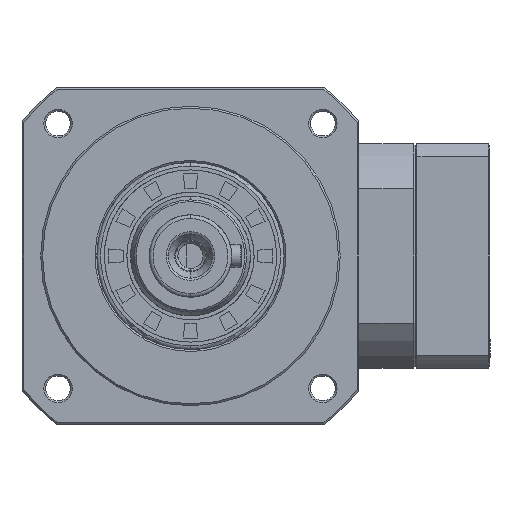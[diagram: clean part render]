
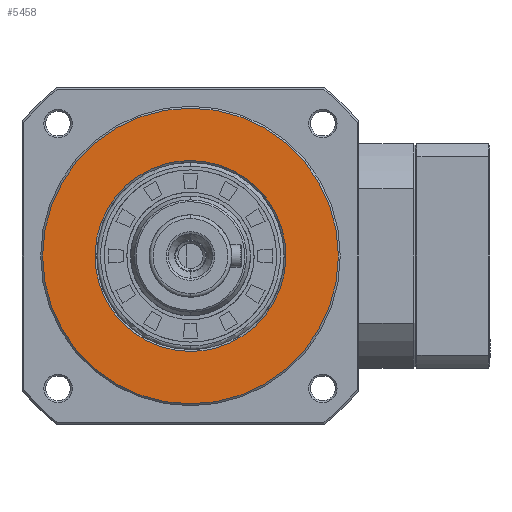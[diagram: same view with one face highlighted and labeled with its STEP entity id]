
A CAD part, left-side view. The second image highlights one B-rep face of the part: STEP entity #5458.
In plain terms, the highlighted planar face has unit normal (1, 0, 0).
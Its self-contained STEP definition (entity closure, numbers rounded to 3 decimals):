
#562 = CARTESIAN_POINT ( 'NONE',  ( 0., 1.669, 25.5 ) ) ;
#833 = B_SPLINE_CURVE_WITH_KNOTS ( 'NONE', 3,
 ( #36269, #6582, #43938, #51663, #97678, #28927, #21239, #35935, #37270, #59665, #28257, #36595, #74069, #6259, #75054, #44277, #98352, #67672, #74411, #29261, #51982, #36935, #58691, #12894, #20592, #43626, #97021, #51310, #13243, #98987, #15872, #60311, #562, #38897 ),
 .UNSPECIFIED., .F., .F.,
 ( 4, 2, 2, 2, 2, 2, 2, 2, 2, 2, 2, 2, 2, 2, 2, 2, 4 ),
 ( 0.5, 0.531, 0.563, 0.594, 0.625, 0.656, 0.688, 0.719, 0.75, 0.781, 0.813, 0.844, 0.875, 0.906, 0.938, 0.969, 1. ),
 .UNSPECIFIED. ) ;
#1478 = EDGE_CURVE ( 'NONE', #69586, #37942, #833, .T. ) ;
#3346 = CARTESIAN_POINT ( 'NONE',  ( 0., -8.216, 24.198 ) ) ;
#3692 = CARTESIAN_POINT ( 'NONE',  ( 0., -12.779, 22.13 ) ) ;
#3999 = DIRECTION ( 'NONE',  ( 0., 0., -1. ) ) ;
#4023 = CARTESIAN_POINT ( 'NONE',  ( 0., -24.684, -6.612 ) ) ;
#4440 = CIRCLE ( 'NONE', #47225, 39.5 ) ;
#5458 = ADVANCED_FACE ( 'NONE', ( #68067, #64553 ), #52792, .T. ) ;
#5602 = EDGE_LOOP ( 'NONE', ( #92540, #40645 ) ) ;
#5874 = ORIENTED_EDGE ( 'NONE', *, *, #39067, .T. ) ;
#6259 = CARTESIAN_POINT ( 'NONE',  ( 0., 24.198, -8.216 ) ) ;
#6582 = CARTESIAN_POINT ( 'NONE',  ( 0., 1.669, -25.5 ) ) ;
#7028 = CARTESIAN_POINT ( 'NONE',  ( 0., -39.974, 39.974 ) ) ;
#11017 = CARTESIAN_POINT ( 'NONE',  ( 0., -15.555, 20.275 ) ) ;
#11335 = CARTESIAN_POINT ( 'NONE',  ( 0., -25.336, 3.338 ) ) ;
#12316 = CARTESIAN_POINT ( 'NONE',  ( 0., -1.669, -25.5 ) ) ;
#12894 = CARTESIAN_POINT ( 'NONE',  ( 0., 20.275, 15.555 ) ) ;
#13243 = CARTESIAN_POINT ( 'NONE',  ( 0., 11.3, 22.92 ) ) ;
#13390 = DIRECTION ( 'NONE',  ( 1., 0., 0. ) ) ;
#15676 = DIRECTION ( 'NONE',  ( 0., 0., -1. ) ) ;
#15872 = CARTESIAN_POINT ( 'NONE',  ( 0., 6.612, 24.684 ) ) ;
#18658 = CARTESIAN_POINT ( 'NONE',  ( 0., -25.5, -1.669 ) ) ;
#18989 = CARTESIAN_POINT ( 'NONE',  ( 0., -22.13, -12.779 ) ) ;
#19331 = CARTESIAN_POINT ( 'NONE',  ( 0., -22.92, 11.3 ) ) ;
#19664 = CARTESIAN_POINT ( 'NONE',  ( 0., -1.669, 25.5 ) ) ;
#20592 = CARTESIAN_POINT ( 'NONE',  ( 0., 19.211, 16.851 ) ) ;
#21239 = CARTESIAN_POINT ( 'NONE',  ( 0., 12.779, -22.13 ) ) ;
#26004 = CARTESIAN_POINT ( 'NONE',  ( 0., -19.211, -16.851 ) ) ;
#26982 = CARTESIAN_POINT ( 'NONE',  ( 0., -3.338, -25.336 ) ) ;
#27315 = CARTESIAN_POINT ( 'NONE',  ( 0., -19.211, 16.851 ) ) ;
#27630 = CARTESIAN_POINT ( 'NONE',  ( 0., 0., 25.5 ) ) ;
#28257 = CARTESIAN_POINT ( 'NONE',  ( 0., 20.275, -15.555 ) ) ;
#28669 = ORIENTED_EDGE ( 'NONE', *, *, #96252, .T. ) ;
#28927 = CARTESIAN_POINT ( 'NONE',  ( 0., 11.3, -22.92 ) ) ;
#29261 = CARTESIAN_POINT ( 'NONE',  ( 0., 24.684, 6.612 ) ) ;
#31614 = EDGE_LOOP ( 'NONE', ( #28669, #5874 ) ) ;
#34370 = CARTESIAN_POINT ( 'NONE',  ( 0., -6.612, -24.684 ) ) ;
#34693 = CARTESIAN_POINT ( 'NONE',  ( 0., 0., 0. ) ) ;
#35935 = CARTESIAN_POINT ( 'NONE',  ( 0., 15.555, -20.275 ) ) ;
#36269 = CARTESIAN_POINT ( 'NONE',  ( 0., 0., -25.5 ) ) ;
#36595 = CARTESIAN_POINT ( 'NONE',  ( 0., 22.13, -12.779 ) ) ;
#36935 = CARTESIAN_POINT ( 'NONE',  ( 0., 22.92, 11.3 ) ) ;
#37270 = CARTESIAN_POINT ( 'NONE',  ( 0., 16.851, -19.211 ) ) ;
#37942 = VERTEX_POINT ( 'NONE', #27630 ) ;
#38897 = CARTESIAN_POINT ( 'NONE',  ( 0., 0., 25.5 ) ) ;
#39067 = EDGE_CURVE ( 'NONE', #76062, #66074, #4440, .T. ) ;
#39472 = AXIS2_PLACEMENT_3D ( 'NONE', #45978, #84712, #68691 ) ;
#40645 = ORIENTED_EDGE ( 'NONE', *, *, #1478, .F. ) ;
#41679 = CARTESIAN_POINT ( 'NONE',  ( 0., 0., 25.5 ) ) ;
#43626 = CARTESIAN_POINT ( 'NONE',  ( 0., 16.851, 19.211 ) ) ;
#43938 = CARTESIAN_POINT ( 'NONE',  ( 0., 3.338, -25.336 ) ) ;
#44277 = CARTESIAN_POINT ( 'NONE',  ( 0., 25.336, -3.338 ) ) ;
#45978 = CARTESIAN_POINT ( 'NONE',  ( 0., 0., 0. ) ) ;
#47225 = AXIS2_PLACEMENT_3D ( 'NONE', #34693, #95399, #3999 ) ;
#49076 = CARTESIAN_POINT ( 'NONE',  ( 0., 0., -25.5 ) ) ;
#49275 = CARTESIAN_POINT ( 'NONE',  ( 0., 0., -39.5 ) ) ;
#49412 = CARTESIAN_POINT ( 'NONE',  ( 0., -6.612, 24.684 ) ) ;
#50400 = CARTESIAN_POINT ( 'NONE',  ( 0., -22.92, -11.3 ) ) ;
#51310 = CARTESIAN_POINT ( 'NONE',  ( 0., 12.779, 22.13 ) ) ;
#51663 = CARTESIAN_POINT ( 'NONE',  ( 0., 6.612, -24.684 ) ) ;
#51982 = CARTESIAN_POINT ( 'NONE',  ( 0., 24.198, 8.216 ) ) ;
#52792 = PLANE ( 'NONE',  #99044 ) ;
#57080 = B_SPLINE_CURVE_WITH_KNOTS ( 'NONE', 3,
 ( #41679, #19664, #73130, #49412, #3346, #80471, #3692, #11017, #96090, #27315, #72126, #87452, #19331, #88096, #57089, #11335, #64444, #18658, #64782, #4023, #87771, #50400, #18989, #95424, #26004, #79474, #72784, #72446, #80142, #57438, #34370, #26982, #12316, #49076 ),
 .UNSPECIFIED., .F., .F.,
 ( 4, 2, 2, 2, 2, 2, 2, 2, 2, 2, 2, 2, 2, 2, 2, 2, 4 ),
 ( 0., 0.031, 0.063, 0.094, 0.125, 0.156, 0.188, 0.219, 0.25, 0.281, 0.313, 0.344, 0.375, 0.406, 0.438, 0.469, 0.5 ),
 .UNSPECIFIED. ) ;
#57089 = CARTESIAN_POINT ( 'NONE',  ( 0., -24.684, 6.612 ) ) ;
#57438 = CARTESIAN_POINT ( 'NONE',  ( 0., -8.216, -24.198 ) ) ;
#58691 = CARTESIAN_POINT ( 'NONE',  ( 0., 22.13, 12.779 ) ) ;
#59665 = CARTESIAN_POINT ( 'NONE',  ( 0., 19.211, -16.851 ) ) ;
#60311 = CARTESIAN_POINT ( 'NONE',  ( 0., 3.338, 25.336 ) ) ;
#63280 = CIRCLE ( 'NONE', #39472, 39.5 ) ;
#64444 = CARTESIAN_POINT ( 'NONE',  ( 0., -25.5, 1.669 ) ) ;
#64553 = FACE_OUTER_BOUND ( 'NONE', #31614, .T. ) ;
#64782 = CARTESIAN_POINT ( 'NONE',  ( 0., -25.336, -3.338 ) ) ;
#66074 = VERTEX_POINT ( 'NONE', #49275 ) ;
#67672 = CARTESIAN_POINT ( 'NONE',  ( 0., 25.5, 1.669 ) ) ;
#68067 = FACE_BOUND ( 'NONE', #5602, .T. ) ;
#68691 = DIRECTION ( 'NONE',  ( 0., 0., -1. ) ) ;
#69586 = VERTEX_POINT ( 'NONE', #77132 ) ;
#71367 = CARTESIAN_POINT ( 'NONE',  ( 0., 0., 39.5 ) ) ;
#72126 = CARTESIAN_POINT ( 'NONE',  ( 0., -20.275, 15.555 ) ) ;
#72446 = CARTESIAN_POINT ( 'NONE',  ( 0., -12.779, -22.13 ) ) ;
#72784 = CARTESIAN_POINT ( 'NONE',  ( 0., -15.555, -20.275 ) ) ;
#73130 = CARTESIAN_POINT ( 'NONE',  ( 0., -3.338, 25.336 ) ) ;
#74069 = CARTESIAN_POINT ( 'NONE',  ( 0., 22.92, -11.3 ) ) ;
#74411 = CARTESIAN_POINT ( 'NONE',  ( 0., 25.336, 3.338 ) ) ;
#75054 = CARTESIAN_POINT ( 'NONE',  ( 0., 24.684, -6.612 ) ) ;
#76062 = VERTEX_POINT ( 'NONE', #71367 ) ;
#77132 = CARTESIAN_POINT ( 'NONE',  ( 0., 0., -25.5 ) ) ;
#79474 = CARTESIAN_POINT ( 'NONE',  ( 0., -16.851, -19.211 ) ) ;
#80142 = CARTESIAN_POINT ( 'NONE',  ( 0., -11.3, -22.92 ) ) ;
#80471 = CARTESIAN_POINT ( 'NONE',  ( 0., -11.3, 22.92 ) ) ;
#84712 = DIRECTION ( 'NONE',  ( 1., 0., 0. ) ) ;
#87452 = CARTESIAN_POINT ( 'NONE',  ( 0., -22.13, 12.779 ) ) ;
#87771 = CARTESIAN_POINT ( 'NONE',  ( 0., -24.198, -8.216 ) ) ;
#88096 = CARTESIAN_POINT ( 'NONE',  ( 0., -24.198, 8.216 ) ) ;
#92540 = ORIENTED_EDGE ( 'NONE', *, *, #96856, .F. ) ;
#95399 = DIRECTION ( 'NONE',  ( 1., 0., 0. ) ) ;
#95424 = CARTESIAN_POINT ( 'NONE',  ( 0., -20.275, -15.555 ) ) ;
#96090 = CARTESIAN_POINT ( 'NONE',  ( 0., -16.851, 19.211 ) ) ;
#96252 = EDGE_CURVE ( 'NONE', #66074, #76062, #63280, .T. ) ;
#96856 = EDGE_CURVE ( 'NONE', #37942, #69586, #57080, .T. ) ;
#97021 = CARTESIAN_POINT ( 'NONE',  ( 0., 15.555, 20.275 ) ) ;
#97678 = CARTESIAN_POINT ( 'NONE',  ( 0., 8.216, -24.198 ) ) ;
#98352 = CARTESIAN_POINT ( 'NONE',  ( 0., 25.5, -1.669 ) ) ;
#98987 = CARTESIAN_POINT ( 'NONE',  ( 0., 8.216, 24.198 ) ) ;
#99044 = AXIS2_PLACEMENT_3D ( 'NONE', #7028, #13390, #15676 ) ;
